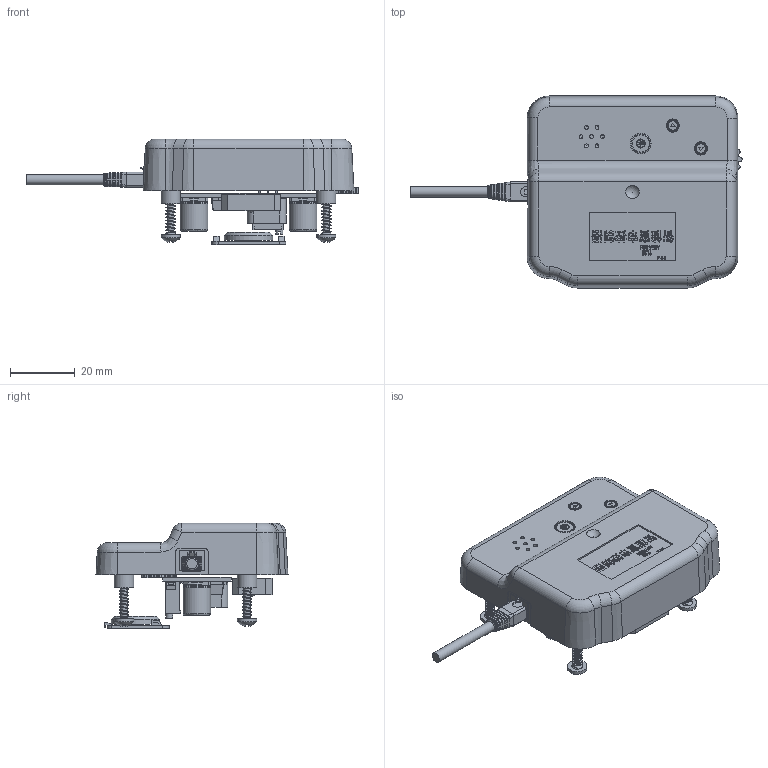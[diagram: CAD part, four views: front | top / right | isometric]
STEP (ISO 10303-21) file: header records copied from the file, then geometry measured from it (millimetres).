
FILE_DESCRIPTION(/* description */ ('CAx-IF Rec.Pracs.---Representation and Presentation of Product Manufacturing Information (PMI)---4.0---2014-10-13','CAx-IF Rec.Pracs.---3D Tessellated Geometry---0.4---2014-09-14','2;1'),/* implementation_level */ '2;1');
FILE_NAME(/* name */ '1',/* time_stamp */ '2023-04-14T23:44:33+08:00',/* author */ (''),/* organization */ (''),/* preprocessor_version */ 'ST-DEVELOPER v16.7',/* originating_system */ $,/* authorisation */ $);
FILE_SCHEMA (('AP242_MANAGED_MODEL_BASED_3D_ENGINEERING_MIM_LF { 1 0 10303 442 20130219 1 4 }'));
Products named in the file (16): 1; 电路板; 散热风扇; 网线接口; 网线插头; 音量开关; 电池盖; 纽扣电池; 扬声器; 确认按钮; 向下按钮; 向上按钮; 自攻螺丝; 支撑板; 显示屏; 上盖
Assembly tree (15 placements, depth 2):
  1
    电路板
    散热风扇
    网线接口
    网线插头
    音量开关
    电池盖
    纽扣电池
    扬声器
    确认按钮
    向下按钮
    向上按钮
    自攻螺丝
    支撑板
    显示屏
    上盖
Bounding box: 102.48 x 59.26 x 32.64 mm (x, y, z)
Volume: 27691.4 mm3; surface area: 32441.9 mm2
Topology: 43 solids, 43 shells, 2829 faces, 7470 edges, 4887 vertices
Faces by surface type: plane 1723, cylinder 511, bspline 463, sphere 51, cone 41, torus 40
Full cylindrical faces by diameter (mm): 0.116 x1, 0.5 x1, 0.508 x3, 0.8 x4, 1 x4, 1.1 x4, 1.2 x7, 2.184 x1, 2.2 x1, 2.428 x1, 2.603 x1, 2.793 x1, 2.892 x1, 2.901 x1, 3 x4, 3.2 x3, 3.208 x1, 3.228 x1, 3.881 x2, 4.081 x2, 5.282 x1, 5.686 x1, 5.75 x1, 6 x8, 6.209 x1, 6.409 x1, 8.2 x2, 8.5 x2, 10 x3, 11.44 x1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
Entity records: 120866 total; most frequent: CARTESIAN_POINT 46501, ORIENTED_EDGE 14520, DIRECTION 12169, EDGE_CURVE 7260, LINE 4861, VECTOR 4861, VERTEX_POINT 4825, AXIS2_PLACEMENT_3D 3782
